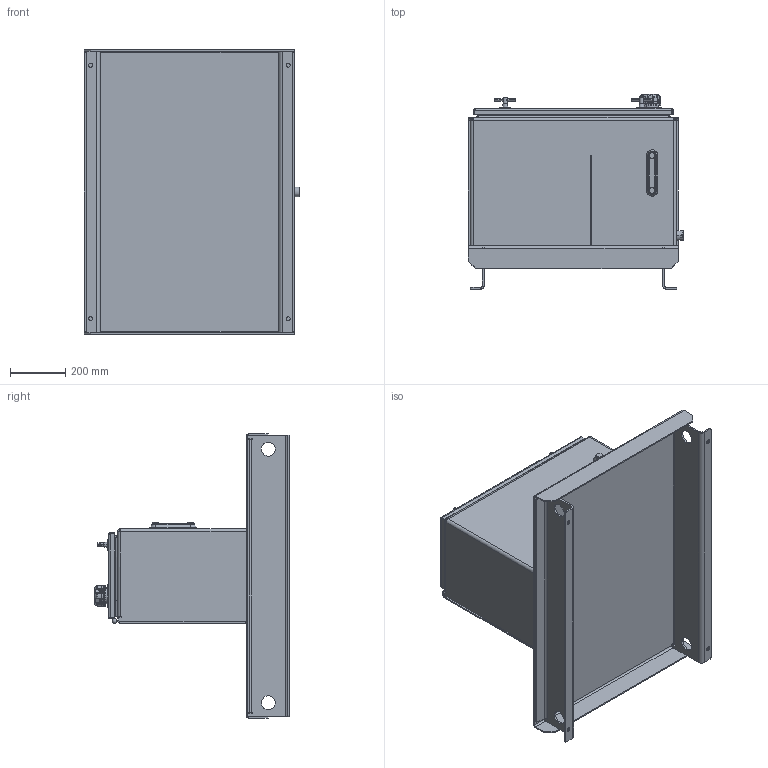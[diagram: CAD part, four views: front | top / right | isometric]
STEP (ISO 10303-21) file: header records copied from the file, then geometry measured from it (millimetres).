
FILE_DESCRIPTION (( 'STEP AP203' ), '1' );
FILE_NAME ('RTP020-HT.STEP', '2015-01-07T19:18:43', ( '' ), ( '' ), 'SwSTEP 2.0', 'SolidWorks 2014', '' );
FILE_SCHEMA (( 'CONFIG_CONTROL_DESIGN' ));
Length unit declared in the file: inch
Products named in the file (1): RTP020-HT
Bounding box: 781.05 x 707.39 x 1031.88 mm (x, y, z)
Volume: 13672195.3 mm3; surface area: 6056723.5 mm2
Topology: 40 solids, 218 shells, 2851 faces, 6298 edges, 3861 vertices
Faces by surface type: plane 1248, cylinder 1018, torus 299, bspline 144, cone 92, sphere 50
Entity records: 87155 total; most frequent: CARTESIAN_POINT 23962, DIRECTION 13798, ORIENTED_EDGE 12500, EDGE_CURVE 6250, AXIS2_PLACEMENT_3D 5309, VERTEX_POINT 3849, VECTOR 3180, LINE 3180
